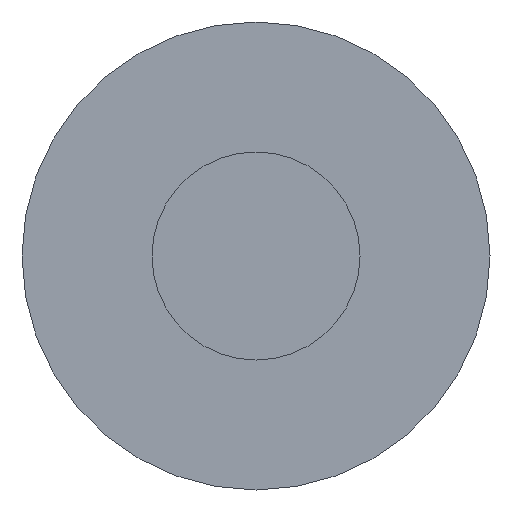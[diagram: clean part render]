
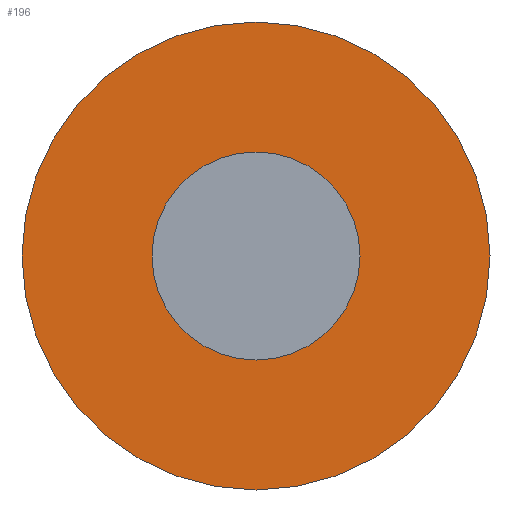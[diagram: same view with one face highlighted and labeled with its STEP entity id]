
A CAD part, front view. The second image highlights one B-rep face of the part: STEP entity #196.
In plain terms, the highlighted planar face has unit normal (0, -1, 0).
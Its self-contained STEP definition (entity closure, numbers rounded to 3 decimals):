
#7 = DIRECTION ( 'NONE',  ( 0., -1., 0. ) ) ;
#8 = AXIS2_PLACEMENT_3D ( 'NONE', #212, #64, #101 ) ;
#12 = EDGE_CURVE ( 'NONE', #44, #28, #277, .T. ) ;
#23 = CARTESIAN_POINT ( 'NONE',  ( 0., 0., -2. ) ) ;
#28 = VERTEX_POINT ( 'NONE', #23 ) ;
#31 = ORIENTED_EDGE ( 'NONE', *, *, #110, .F. ) ;
#33 = EDGE_LOOP ( 'NONE', ( #170, #39 ) ) ;
#34 = ORIENTED_EDGE ( 'NONE', *, *, #12, .F. ) ;
#39 = ORIENTED_EDGE ( 'NONE', *, *, #227, .F. ) ;
#44 = VERTEX_POINT ( 'NONE', #128 ) ;
#50 = DIRECTION ( 'NONE',  ( 0., 1., 0. ) ) ;
#60 = CIRCLE ( 'NONE', #8, 4.5 ) ;
#62 = FACE_BOUND ( 'NONE', #261, .T. ) ;
#64 = DIRECTION ( 'NONE',  ( 0., 1., 0. ) ) ;
#84 = CARTESIAN_POINT ( 'NONE',  ( 0., 0., 0. ) ) ;
#85 = EDGE_CURVE ( 'NONE', #150, #246, #60, .T. ) ;
#96 = CARTESIAN_POINT ( 'NONE',  ( 0., 0., 0. ) ) ;
#101 = DIRECTION ( 'NONE',  ( 0., 0., 1. ) ) ;
#103 = DIRECTION ( 'NONE',  ( 0., 0., 1. ) ) ;
#108 = DIRECTION ( 'NONE',  ( 0., 0., -1. ) ) ;
#110 = EDGE_CURVE ( 'NONE', #28, #44, #162, .T. ) ;
#128 = CARTESIAN_POINT ( 'NONE',  ( 0., 0., 2. ) ) ;
#150 = VERTEX_POINT ( 'NONE', #330 ) ;
#162 = CIRCLE ( 'NONE', #207, 2. ) ;
#170 = ORIENTED_EDGE ( 'NONE', *, *, #85, .F. ) ;
#178 = FACE_OUTER_BOUND ( 'NONE', #33, .T. ) ;
#184 = AXIS2_PLACEMENT_3D ( 'NONE', #84, #226, #103 ) ;
#185 = CARTESIAN_POINT ( 'NONE',  ( 0., 0., 0. ) ) ;
#196 = ADVANCED_FACE ( 'NONE', ( #62, #178 ), #221, .F. ) ;
#198 = DIRECTION ( 'NONE',  ( 0., -1., 0. ) ) ;
#207 = AXIS2_PLACEMENT_3D ( 'NONE', #96, #7, #108 ) ;
#212 = CARTESIAN_POINT ( 'NONE',  ( 0., 0., 0. ) ) ;
#218 = DIRECTION ( 'NONE',  ( 0., 0., -1. ) ) ;
#221 = PLANE ( 'NONE',  #184 ) ;
#226 = DIRECTION ( 'NONE',  ( 0., 1., 0. ) ) ;
#227 = EDGE_CURVE ( 'NONE', #246, #150, #300, .T. ) ;
#246 = VERTEX_POINT ( 'NONE', #299 ) ;
#248 = CARTESIAN_POINT ( 'NONE',  ( 0., 0., 0. ) ) ;
#261 = EDGE_LOOP ( 'NONE', ( #31, #34 ) ) ;
#277 = CIRCLE ( 'NONE', #325, 2. ) ;
#278 = DIRECTION ( 'NONE',  ( 0., 0., 1. ) ) ;
#299 = CARTESIAN_POINT ( 'NONE',  ( 0., 0., 4.5 ) ) ;
#300 = CIRCLE ( 'NONE', #303, 4.5 ) ;
#303 = AXIS2_PLACEMENT_3D ( 'NONE', #185, #50, #278 ) ;
#325 = AXIS2_PLACEMENT_3D ( 'NONE', #248, #198, #218 ) ;
#330 = CARTESIAN_POINT ( 'NONE',  ( 0., 0., -4.5 ) ) ;
